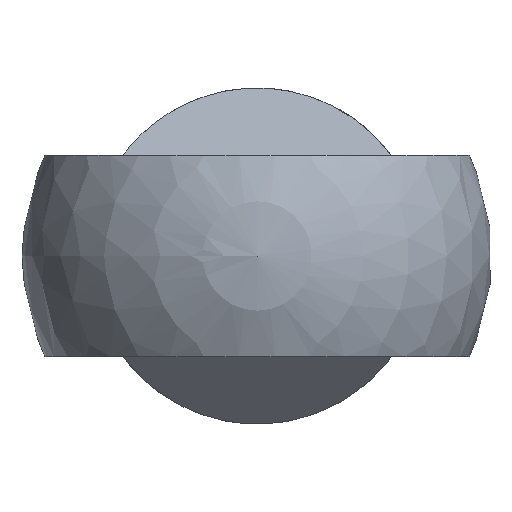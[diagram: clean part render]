
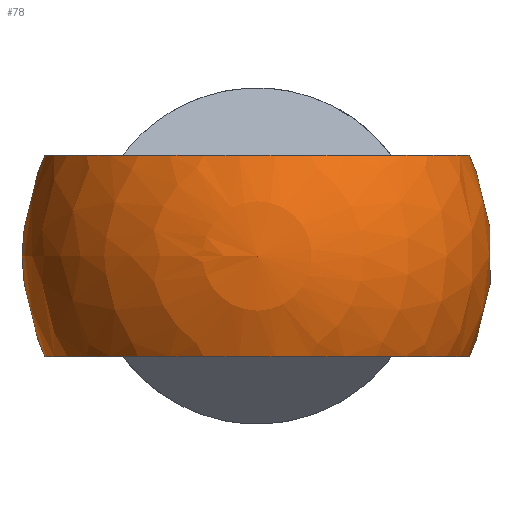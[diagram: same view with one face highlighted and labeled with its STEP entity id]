
A CAD part, left-side view. The second image highlights one B-rep face of the part: STEP entity #78.
In plain terms, the highlighted spherical face has radius 7 mm.
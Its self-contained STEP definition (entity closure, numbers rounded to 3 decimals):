
#78 = ADVANCED_FACE( '', ( #97, #98 ), #99, .T. );
#97 = FACE_BOUND( '', #131, .T. );
#98 = FACE_OUTER_BOUND( '', #132, .T. );
#99 = SPHERICAL_SURFACE( '', #133, 7. );
#131 = VERTEX_LOOP( '', #181 );
#132 = EDGE_LOOP( '', ( #182, #183, #184, #185 ) );
#133 = AXIS2_PLACEMENT_3D( '', #186, #187, #188 );
#181 = VERTEX_POINT( '', #245 );
#182 = ORIENTED_EDGE( '', *, *, #239, .F. );
#183 = ORIENTED_EDGE( '', *, *, #237, .T. );
#184 = ORIENTED_EDGE( '', *, *, #243, .F. );
#185 = ORIENTED_EDGE( '', *, *, #246, .T. );
#186 = CARTESIAN_POINT( '', ( 0., 0., 0. ) );
#187 = DIRECTION( '', ( 1., 0., 0. ) );
#188 = DIRECTION( '', ( 0., 1., 0. ) );
#237 = EDGE_CURVE( '', #257, #262, #264, .F. );
#239 = EDGE_CURVE( '', #257, #267, #268, .F. );
#243 = EDGE_CURVE( '', #273, #262, #275, .F. );
#245 = CARTESIAN_POINT( '', ( -7., 0., 0. ) );
#246 = EDGE_CURVE( '', #273, #267, #277, .F. );
#257 = VERTEX_POINT( '', #291 );
#262 = VERTEX_POINT( '', #298 );
#264 = CIRCLE( '', #301, 6.325 );
#267 = VERTEX_POINT( '', #304 );
#268 = CIRCLE( '', #305, 5. );
#273 = VERTEX_POINT( '', #311 );
#275 = CIRCLE( '', #314, 5. );
#277 = CIRCLE( '', #316, 6.325 );
#291 = CARTESIAN_POINT( '', ( 4.899, 4., -3. ) );
#298 = CARTESIAN_POINT( '', ( 4.899, -4., -3. ) );
#301 = AXIS2_PLACEMENT_3D( '', #336, #337, #338 );
#304 = CARTESIAN_POINT( '', ( 4.899, 4., 3. ) );
#305 = AXIS2_PLACEMENT_3D( '', #342, #343, #344 );
#311 = CARTESIAN_POINT( '', ( 4.899, -4., 3. ) );
#314 = AXIS2_PLACEMENT_3D( '', #350, #351, #352 );
#316 = AXIS2_PLACEMENT_3D( '', #356, #357, #358 );
#336 = CARTESIAN_POINT( '', ( 0., 0., -3. ) );
#337 = DIRECTION( '', ( 0., 0., -1. ) );
#338 = DIRECTION( '', ( -1., 0., 0. ) );
#342 = CARTESIAN_POINT( '', ( 4.899, 0., 0. ) );
#343 = DIRECTION( '', ( -1., 0., 0. ) );
#344 = DIRECTION( '', ( 0., -1., 0. ) );
#350 = CARTESIAN_POINT( '', ( 4.899, 0., 0. ) );
#351 = DIRECTION( '', ( -1., 0., 0. ) );
#352 = DIRECTION( '', ( 0., -1., 0. ) );
#356 = CARTESIAN_POINT( '', ( 0., 0., 3. ) );
#357 = DIRECTION( '', ( 0., 0., 1. ) );
#358 = DIRECTION( '', ( 1., 0., 0. ) );
